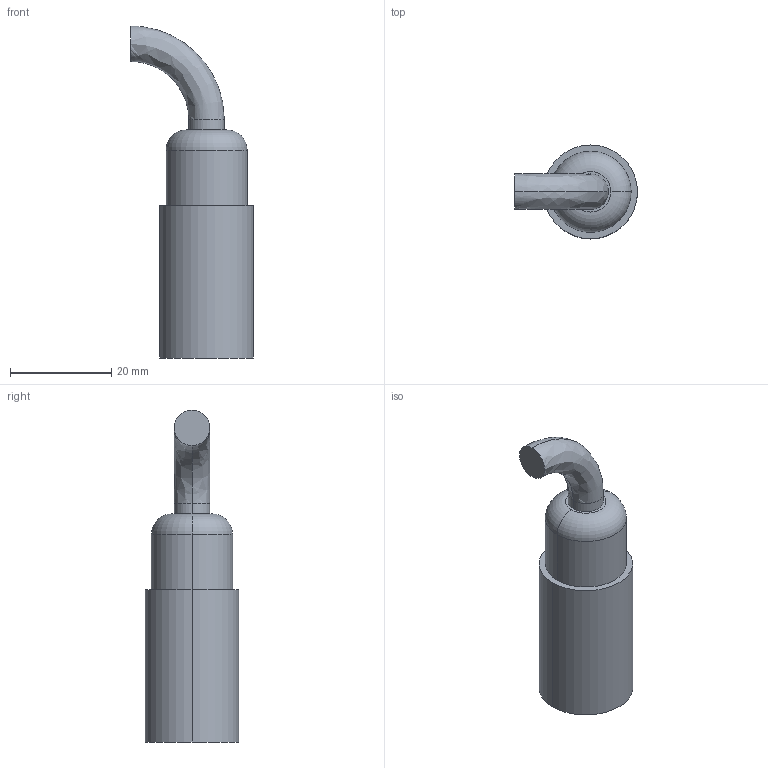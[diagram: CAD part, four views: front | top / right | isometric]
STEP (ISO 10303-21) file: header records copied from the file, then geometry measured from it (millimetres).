
FILE_DESCRIPTION (( 'STEP AP203' ), '1' );
FILE_NAME ('Asyril_FEMALE STRAIGHT 5P 5m M16 POWER CABLE_900.006.215_(option).step', '2017-07-05T07:24:07', ( 'Standard' ), ( '' ), 'SwSTEP 2.0', 'SolidWorks 2016', '' );
FILE_SCHEMA (( 'CONFIG_CONTROL_DESIGN' ));
Length unit declared in the file: millimetre
Products named in the file (1): Asyril_FEMALE STRAIGHT 5P 5m M16 POWER CABLE_900.006.215_(option)
Bounding box: 24.25 x 18.5 x 65.5 mm (x, y, z)
Volume: 11910.3 mm3; surface area: 3503.8 mm2
Topology: 1 solids, 1 shells, 14 faces, 26 edges, 16 vertices
Faces by surface type: cylinder 6, plane 4, bspline 2, torus 2
Entity records: 593 total; most frequent: CARTESIAN_POINT 229, DIRECTION 68, ORIENTED_EDGE 52, AXIS2_PLACEMENT_3D 31, EDGE_CURVE 26, CIRCLE 18, VERTEX_POINT 16, EDGE_LOOP 16
